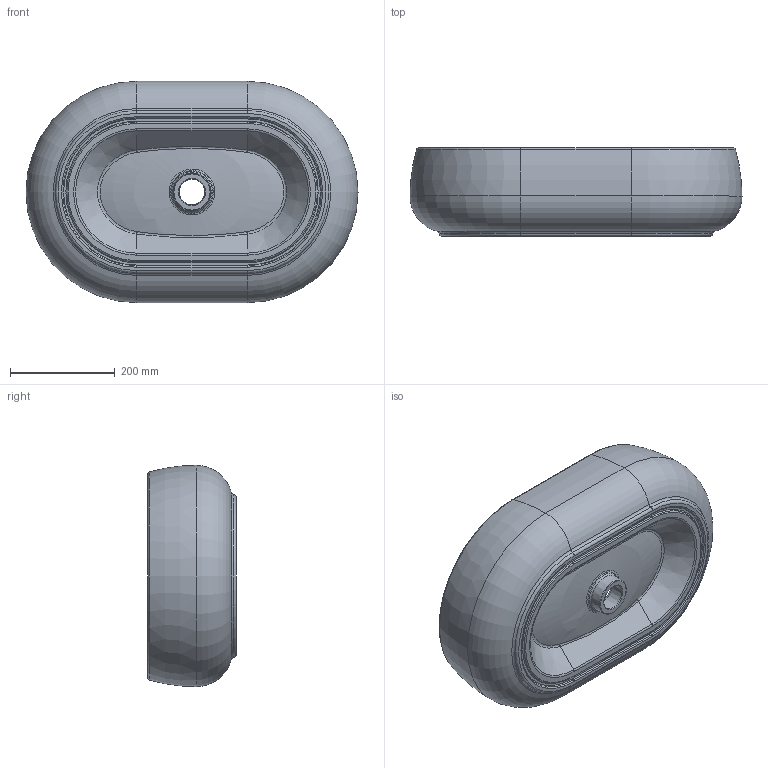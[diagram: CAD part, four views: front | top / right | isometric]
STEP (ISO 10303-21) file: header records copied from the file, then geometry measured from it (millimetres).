
FILE_DESCRIPTION (( 'STEP AP203' ), '1' );
FILE_NAME ('NUV200_AP6.STEP', '2017-12-13T11:48:16', ( '' ), ( '' ), 'SwSTEP 2.0', 'SolidWorks 2018', '' );
FILE_SCHEMA (( 'CONFIG_CONTROL_DESIGN' ));
Length unit declared in the file: millimetre
Products named in the file (1): NUV200_AP6
Bounding box: 632.4 x 168.64 x 421.6 mm (x, y, z)
Volume: 16670704.2 mm3; surface area: 777989.2 mm2
Topology: 1 solids, 1 shells, 65 faces, 150 edges, 90 vertices
Faces by surface type: torus 22, cylinder 20, bspline 12, plane 7, cone 4
Entity records: 7789 total; most frequent: CARTESIAN_POINT 6366, DIRECTION 298, ORIENTED_EDGE 256, AXIS2_PLACEMENT_3D 132, EDGE_CURVE 128, EDGE_LOOP 82, VERTEX_POINT 80, CIRCLE 78
